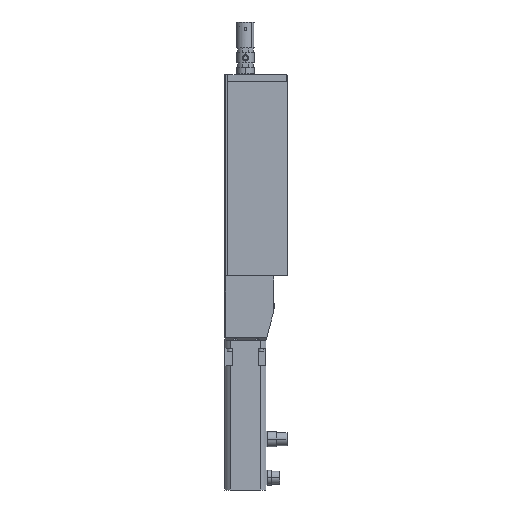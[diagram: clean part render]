
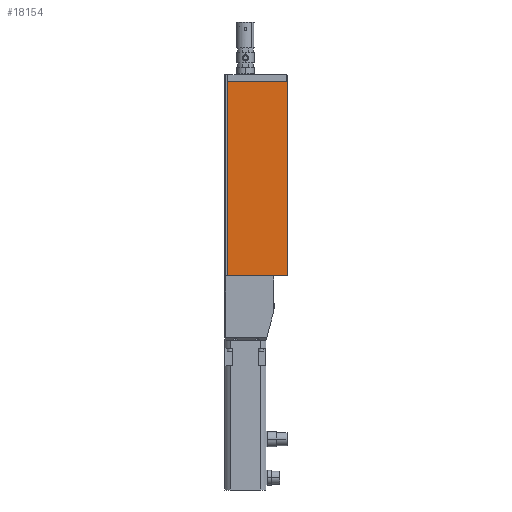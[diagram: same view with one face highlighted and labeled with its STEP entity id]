
A CAD part, left-side view. The second image highlights one B-rep face of the part: STEP entity #18154.
In plain terms, the highlighted planar face has unit normal (-1, 0, 0).
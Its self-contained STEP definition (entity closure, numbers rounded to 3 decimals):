
#627 = VERTEX_POINT ( 'NONE', #9491 ) ;
#823 = CARTESIAN_POINT ( 'NONE',  ( 16.221, 22.916, 284.226 ) ) ;
#4187 = CARTESIAN_POINT ( 'NONE',  ( 16.221, 124.916, 284.226 ) ) ;
#4242 = LINE ( 'NONE', #35512, #35425 ) ;
#4882 = DIRECTION ( 'NONE',  ( 0., -1., 0. ) ) ;
#7321 = DIRECTION ( 'NONE',  ( 1., 0., 0. ) ) ;
#8196 = EDGE_LOOP ( 'NONE', ( #16975, #21244, #10945, #36794 ) ) ;
#9453 = EDGE_CURVE ( 'NONE', #25296, #14905, #34229, .T. ) ;
#9491 = CARTESIAN_POINT ( 'NONE',  ( 16.221, 22.916, 284.226 ) ) ;
#10814 = EDGE_CURVE ( 'NONE', #25296, #627, #24145, .T. ) ;
#10945 = ORIENTED_EDGE ( 'NONE', *, *, #10814, .F. ) ;
#11477 = VECTOR ( 'NONE', #26961, 1000. ) ;
#12265 = DIRECTION ( 'NONE',  ( 0., 0., -1. ) ) ;
#12929 = AXIS2_PLACEMENT_3D ( 'NONE', #18675, #7321, #26910 ) ;
#12948 = PLANE ( 'NONE',  #12929 ) ;
#14757 = VECTOR ( 'NONE', #12265, 1000. ) ;
#14905 = VERTEX_POINT ( 'NONE', #26286 ) ;
#15024 = VERTEX_POINT ( 'NONE', #18282 ) ;
#15179 = DIRECTION ( 'NONE',  ( 0., -1., 0. ) ) ;
#15649 = VECTOR ( 'NONE', #15179, 1000. ) ;
#16962 = EDGE_CURVE ( 'NONE', #627, #15024, #17868, .T. ) ;
#16975 = ORIENTED_EDGE ( 'NONE', *, *, #18289, .T. ) ;
#17073 = CARTESIAN_POINT ( 'NONE',  ( 16.221, 124.916, 284.226 ) ) ;
#17868 = LINE ( 'NONE', #823, #14757 ) ;
#18154 = ADVANCED_FACE ( 'NONE', ( #29668 ), #12948, .F. ) ;
#18179 = CARTESIAN_POINT ( 'NONE',  ( 16.221, 22.916, 284.226 ) ) ;
#18282 = CARTESIAN_POINT ( 'NONE',  ( 16.221, 22.916, -47.774 ) ) ;
#18289 = EDGE_CURVE ( 'NONE', #14905, #15024, #4242, .T. ) ;
#18675 = CARTESIAN_POINT ( 'NONE',  ( 16.221, 22.916, 284.226 ) ) ;
#21244 = ORIENTED_EDGE ( 'NONE', *, *, #16962, .F. ) ;
#24145 = LINE ( 'NONE', #18179, #15649 ) ;
#25296 = VERTEX_POINT ( 'NONE', #17073 ) ;
#26286 = CARTESIAN_POINT ( 'NONE',  ( 16.221, 124.916, -47.774 ) ) ;
#26910 = DIRECTION ( 'NONE',  ( 0., 0., -1. ) ) ;
#26961 = DIRECTION ( 'NONE',  ( 0., 0., -1. ) ) ;
#29668 = FACE_OUTER_BOUND ( 'NONE', #8196, .T. ) ;
#34229 = LINE ( 'NONE', #4187, #11477 ) ;
#35425 = VECTOR ( 'NONE', #4882, 1000. ) ;
#35512 = CARTESIAN_POINT ( 'NONE',  ( 16.221, 22.916, -47.774 ) ) ;
#36794 = ORIENTED_EDGE ( 'NONE', *, *, #9453, .T. ) ;
